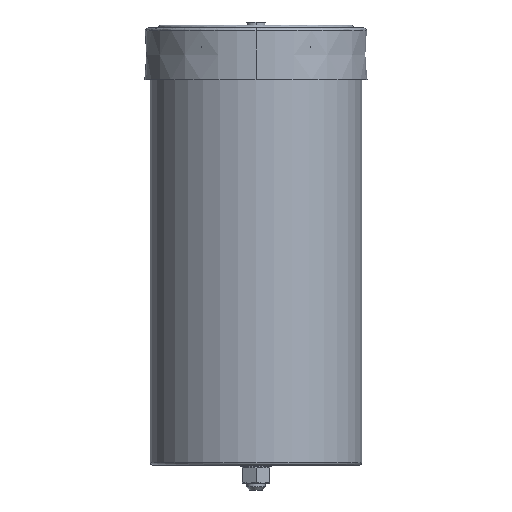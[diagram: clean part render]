
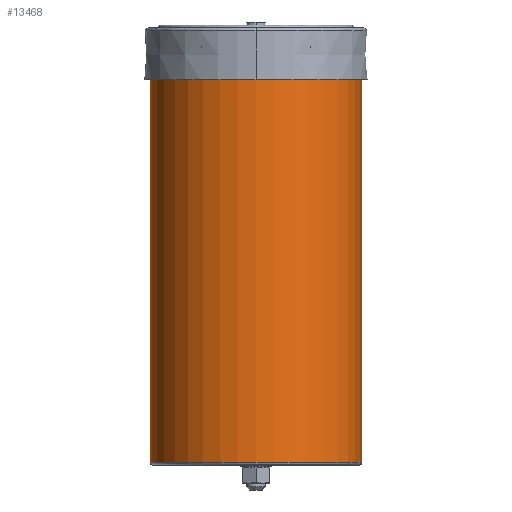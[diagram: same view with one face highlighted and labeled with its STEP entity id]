
A CAD part, left-side view. The second image highlights one B-rep face of the part: STEP entity #13468.
In plain terms, the highlighted cylindrical face has radius 68 mm (diameter 136 mm), a partial arc.
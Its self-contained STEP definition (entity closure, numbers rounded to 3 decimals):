
#1456 = LINE ( 'NONE', #7040, #3488 ) ;
#3066 = AXIS2_PLACEMENT_3D ( 'NONE', #13795, #25015, #5599 ) ;
#3285 = CARTESIAN_POINT ( 'NONE',  ( 0., -68., 0.9 ) ) ;
#3488 = VECTOR ( 'NONE', #26074, 1000. ) ;
#3565 = DIRECTION ( 'NONE',  ( 0., 0., -1. ) ) ;
#3777 = VECTOR ( 'NONE', #25157, 1000. ) ;
#4387 = VERTEX_POINT ( 'NONE', #3285 ) ;
#5599 = DIRECTION ( 'NONE',  ( 0., -1., 0. ) ) ;
#5844 = CARTESIAN_POINT ( 'NONE',  ( 0., 68., -276. ) ) ;
#5982 = ORIENTED_EDGE ( 'NONE', *, *, #7852, .T. ) ;
#6845 = DIRECTION ( 'NONE',  ( 0., 1., 0. ) ) ;
#7040 = CARTESIAN_POINT ( 'NONE',  ( 0., -68., -276. ) ) ;
#7222 = EDGE_CURVE ( 'NONE', #12797, #20101, #16930, .T. ) ;
#7420 = CARTESIAN_POINT ( 'NONE',  ( 0., 0., 0.9 ) ) ;
#7852 = EDGE_CURVE ( 'NONE', #21140, #21397, #16903, .T. ) ;
#8220 = DIRECTION ( 'NONE',  ( 0., -1., 0. ) ) ;
#8540 = CARTESIAN_POINT ( 'NONE',  ( 0., 68., 0.9 ) ) ;
#8667 = EDGE_CURVE ( 'NONE', #21397, #12797, #18620, .T. ) ;
#8778 = EDGE_CURVE ( 'NONE', #4387, #21140, #13516, .T. ) ;
#8879 = AXIS2_PLACEMENT_3D ( 'NONE', #23732, #17375, #6845 ) ;
#9617 = CARTESIAN_POINT ( 'NONE',  ( 0., -68., -274. ) ) ;
#12797 = VERTEX_POINT ( 'NONE', #22007 ) ;
#13468 = ADVANCED_FACE ( 'NONE', ( #18452 ), #13715, .T. ) ;
#13516 = CIRCLE ( 'NONE', #8879, 68. ) ;
#13715 = CYLINDRICAL_SURFACE ( 'NONE', #27038, 68. ) ;
#13795 = CARTESIAN_POINT ( 'NONE',  ( 0., 0., -274. ) ) ;
#15810 = CARTESIAN_POINT ( 'NONE',  ( -68., 0., 0.9 ) ) ;
#16456 = DIRECTION ( 'NONE',  ( 0., 1., 0. ) ) ;
#16903 = CIRCLE ( 'NONE', #26763, 68. ) ;
#16930 = CIRCLE ( 'NONE', #3066, 68. ) ;
#17375 = DIRECTION ( 'NONE',  ( 0., 0., -1. ) ) ;
#17495 = ORIENTED_EDGE ( 'NONE', *, *, #8778, .T. ) ;
#17977 = EDGE_CURVE ( 'NONE', #4387, #20101, #1456, .T. ) ;
#18452 = FACE_OUTER_BOUND ( 'NONE', #18721, .T. ) ;
#18620 = LINE ( 'NONE', #5844, #3777 ) ;
#18721 = EDGE_LOOP ( 'NONE', ( #17495, #5982, #20474, #27467, #21944 ) ) ;
#20101 = VERTEX_POINT ( 'NONE', #9617 ) ;
#20474 = ORIENTED_EDGE ( 'NONE', *, *, #8667, .T. ) ;
#21140 = VERTEX_POINT ( 'NONE', #15810 ) ;
#21397 = VERTEX_POINT ( 'NONE', #8540 ) ;
#21944 = ORIENTED_EDGE ( 'NONE', *, *, #17977, .F. ) ;
#22007 = CARTESIAN_POINT ( 'NONE',  ( 0., 68., -274. ) ) ;
#23033 = CARTESIAN_POINT ( 'NONE',  ( 0., 0., -276. ) ) ;
#23732 = CARTESIAN_POINT ( 'NONE',  ( 0., 0., 0.9 ) ) ;
#25015 = DIRECTION ( 'NONE',  ( 0., 0., 1. ) ) ;
#25157 = DIRECTION ( 'NONE',  ( 0., 0., -1. ) ) ;
#26074 = DIRECTION ( 'NONE',  ( 0., 0., -1. ) ) ;
#26763 = AXIS2_PLACEMENT_3D ( 'NONE', #7420, #3565, #16456 ) ;
#27038 = AXIS2_PLACEMENT_3D ( 'NONE', #23033, #27346, #8220 ) ;
#27346 = DIRECTION ( 'NONE',  ( 0., 0., -1. ) ) ;
#27467 = ORIENTED_EDGE ( 'NONE', *, *, #7222, .T. ) ;
